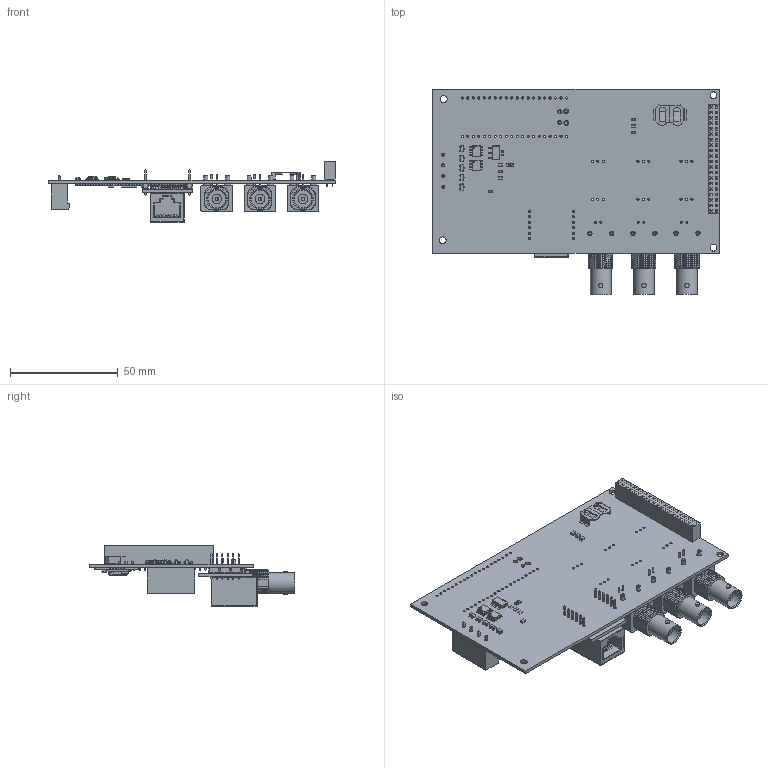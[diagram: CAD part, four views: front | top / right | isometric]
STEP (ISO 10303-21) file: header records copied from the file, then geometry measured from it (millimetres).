
FILE_DESCRIPTION(('KiCad electronic assembly'),'2;1');
FILE_NAME('tank1a.step','2026-07-03T19:31:24',('Pcbnew'),('Kicad'), 'Open CASCADE STEP processor 7.5','KiCad to STEP converter','Unknown' );
FILE_SCHEMA(('AUTOMOTIVE_DESIGN { 1 0 10303 214 1 1 1 1 }'));
Length unit declared in the file: millimetre
Products named in the file (18): tank1a 1; SOT-23; C_0805_2012Metric; SOT-223; FC-135R_L3.2-W1.5; BatteryHolder_LINX_BAT-HLD-012-SMT; PinSocket_2x20_P2.54mm_Vertical; R_0805_2012Metric; SOIC-8_3.9x4.9mm_P1.27mm; PhoenixContact_MSTBVA_2,5_4-G_1x04_P5.00mm_Vertical; BNC_Amphenol_B6252HB-NPP3G-50_Horizontal; w5500-lite; COMPOUND; RaspberryPi_Pico; RaspberryPi_Pico_Module_KiCad; tank1_PCB
Assembly tree (29 placements, depth 3):
  tank1a 1
    SOT-23  x5
    C_0805_2012Metric  x4
    SOT-223
    FC-135R_L3.2-W1.5
    BatteryHolder_LINX_BAT-HLD-012-SMT
    PinSocket_2x20_P2.54mm_Vertical
    R_0805_2012Metric  x3
    SOIC-8_3.9x4.9mm_P1.27mm  x2
    PhoenixContact_MSTBVA_2,5_4-G_1x04_P5.00mm_Vertical
    BNC_Amphenol_B6252HB-NPP3G-50_Horizontal  x3
    w5500-lite
      COMPOUND
      COMPOUND
      COMPOUND
    RaspberryPi_Pico
      RaspberryPi_Pico_Module_KiCad
    tank1_PCB
Bounding box: 132.7 x 95.2 x 28.12 mm (x, y, z)
Volume: 33286.8 mm3; surface area: 44741.3 mm2
Topology: 108 solids, 244 shells, 5640 faces, 15043 edges, 9988 vertices
Faces by surface type: plane 3744, bspline 1184, cylinder 662, cone 34, torus 16
Full cylindrical faces by diameter (mm): 0.67 x12, 0.89 x6, 1 x153, 1.3 x3, 1.4 x4, 1.6 x3, 1.8 x6, 1.85 x2, 2 x12, 2.01 x6, 2.1 x4, 2.2 x2, 2.5 x6, 3.2 x13, 3.5 x3, 3.8 x3, 4.4 x3, 8.25 x3, 9.65 x3
Entity records: 157237 total; most frequent: CARTESIAN_POINT 54922, ORIENTED_EDGE 24008, DIRECTION 15565, EDGE_CURVE 12325, VERTEX_POINT 8244, LINE 6035, VECTOR 6035, FACE_BOUND 5177
